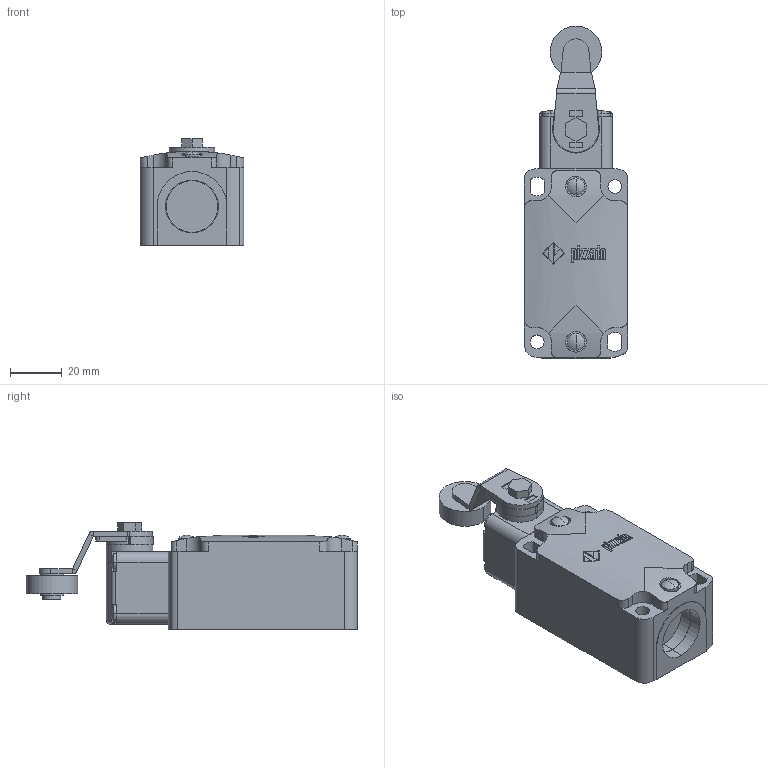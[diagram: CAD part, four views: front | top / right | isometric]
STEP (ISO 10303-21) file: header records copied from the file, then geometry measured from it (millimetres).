
FILE_DESCRIPTION (( 'STEP AP214' ), '1' );
FILE_NAME ('ZF_STEP_FD_x51_A10.step', '2014-04-10T09:00:58', ( 'utente' ), ( 'Microsoft' ), 'SwSTEP 2.0', 'SolidWorks 2013', '' );
FILE_SCHEMA (( 'AUTOMOTIVE_DESIGN' ));
Length unit declared in the file: millimetre
Products named in the file (8): Pizzato_L51; Vite_leve_pesanti; Pizzato_supporto-leva_serie_pesanti_262; Pizzato_Supporto_T58; Pizzato_Custodia_FD; ZF_STEP_FD_x51_A10; ZF_STEP_VF_T51_A10; ZF_STEP_VF_L51_A10
Assembly tree (7 placements, depth 4):
  ZF_STEP_FD_x51_A10
    Pizzato_Custodia_FD
    ZF_STEP_VF_T51_A10
      Pizzato_Supporto_T58
      ZF_STEP_VF_L51_A10
        Pizzato_supporto-leva_serie_pesanti_262
        Vite_leve_pesanti
        Pizzato_L51
Bounding box: 40 x 128.2 x 41.2 mm (x, y, z)
Volume: 116316.8 mm3; surface area: 26346.6 mm2
Topology: 5 solids, 5 shells, 832 faces, 2294 edges, 1524 vertices
Faces by surface type: plane 433, cylinder 284, bspline 101, sphere 12, torus 2
Entity records: 32114 total; most frequent: CARTESIAN_POINT 10796, ORIENTED_EDGE 4588, DIRECTION 4125, EDGE_CURVE 2294, VERTEX_POINT 1524, LINE 1401, VECTOR 1401, AXIS2_PLACEMENT_3D 1362
